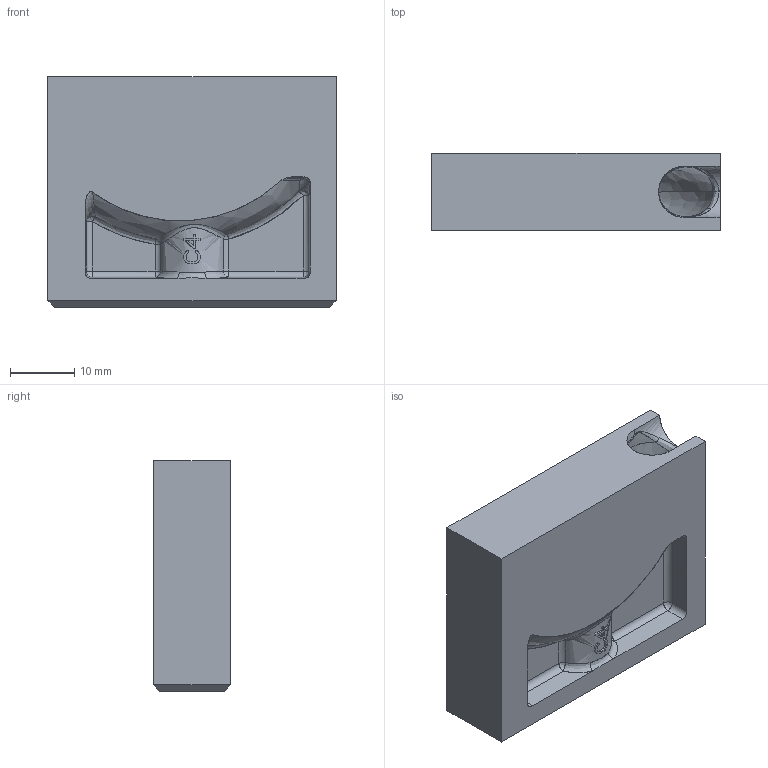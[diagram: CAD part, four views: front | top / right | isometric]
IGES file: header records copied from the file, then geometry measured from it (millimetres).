
Start section: VISI Layer Mapping Iges    VISI  0      0  1      WARNINGS
Global section: file name: G:\Produktkommunikation\Support\CD-Online-Katalog\3D Daten Produkte\E1680_85_90_92_95\E1692_45.igs; native system: VISI 16.0; preprocessor: 2.0; author: PUM; organization: Unknown; date: 20110119.165757; units: millimetre
Bounding box: 45 x 12 x 36 mm (x, y, z)
Surface area: 7131.2 mm2 (no closed solid volume)
Topology: 0 solids, 0 shells, 214 faces, 1667 edges, 1650 vertices
Faces by surface type: bspline 214
